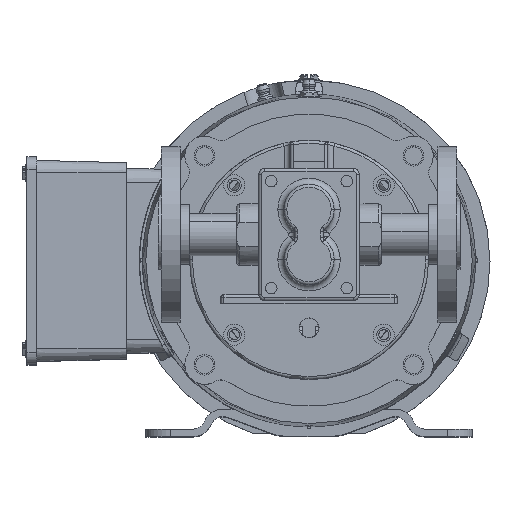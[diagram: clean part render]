
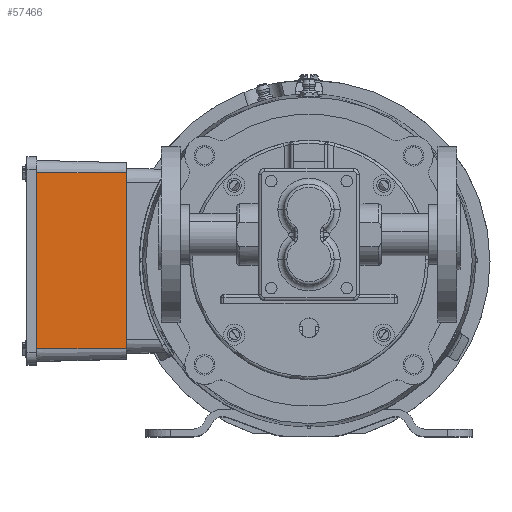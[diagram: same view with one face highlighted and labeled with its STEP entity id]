
A CAD part, top view. The second image highlights one B-rep face of the part: STEP entity #57466.
In plain terms, the highlighted planar face has unit normal (0.026, 0, 1).
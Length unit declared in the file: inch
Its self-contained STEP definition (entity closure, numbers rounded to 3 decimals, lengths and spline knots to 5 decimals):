
#966 = EDGE_CURVE ( 'NONE', #20325, #61174, #53790, .T. ) ;
#1228 = CARTESIAN_POINT ( 'NONE',  ( -6.59618, 2.2822, -8.29026 ) ) ;
#2834 = ORIENTED_EDGE ( 'NONE', *, *, #12655, .T. ) ;
#4219 = VECTOR ( 'NONE', #15837, 39.37008 ) ;
#4532 = CARTESIAN_POINT ( 'NONE',  ( -6.69118, 2.2822, -8.28777 ) ) ;
#8076 = LINE ( 'NONE', #46836, #20709 ) ;
#12655 = EDGE_CURVE ( 'NONE', #61174, #34516, #59400, .T. ) ;
#13165 = DIRECTION ( 'NONE',  ( 0.026, 0., 1. ) ) ;
#15698 = CARTESIAN_POINT ( 'NONE',  ( -6.59618, -1.2178, -8.29026 ) ) ;
#15837 = DIRECTION ( 'NONE',  ( 0., -1., 0. ) ) ;
#17978 = CARTESIAN_POINT ( 'NONE',  ( -4.81118, 2.2822, -8.337 ) ) ;
#18599 = CARTESIAN_POINT ( 'NONE',  ( -4.81118, 2.2822, -8.337 ) ) ;
#19963 = VECTOR ( 'NONE', #43306, 39.37008 ) ;
#20325 = VERTEX_POINT ( 'NONE', #17978 ) ;
#20709 = VECTOR ( 'NONE', #37945, 39.37008 ) ;
#22917 = CARTESIAN_POINT ( 'NONE',  ( -6.59618, 2.2822, -8.29026 ) ) ;
#23396 = AXIS2_PLACEMENT_3D ( 'NONE', #37317, #13165, #32525 ) ;
#23398 = VERTEX_POINT ( 'NONE', #61082 ) ;
#27385 = ORIENTED_EDGE ( 'NONE', *, *, #55065, .T. ) ;
#32525 = DIRECTION ( 'NONE',  ( 1., 0., -0.026 ) ) ;
#34516 = VERTEX_POINT ( 'NONE', #15698 ) ;
#37317 = CARTESIAN_POINT ( 'NONE',  ( -6.69118, 2.2822, -8.28777 ) ) ;
#37945 = DIRECTION ( 'NONE',  ( -1., 0., 0.026 ) ) ;
#37998 = DIRECTION ( 'NONE',  ( 0., 1., 0. ) ) ;
#40885 = ORIENTED_EDGE ( 'NONE', *, *, #966, .T. ) ;
#42067 = FACE_OUTER_BOUND ( 'NONE', #56071, .T. ) ;
#43306 = DIRECTION ( 'NONE',  ( -1., 0., 0.026 ) ) ;
#46836 = CARTESIAN_POINT ( 'NONE',  ( -6.69118, -1.2178, -8.28777 ) ) ;
#49484 = VECTOR ( 'NONE', #37998, 39.37008 ) ;
#50616 = EDGE_CURVE ( 'NONE', #23398, #34516, #8076, .T. ) ;
#51719 = ORIENTED_EDGE ( 'NONE', *, *, #50616, .F. ) ;
#52578 = PLANE ( 'NONE',  #23396 ) ;
#53790 = LINE ( 'NONE', #4532, #19963 ) ;
#55065 = EDGE_CURVE ( 'NONE', #23398, #20325, #62171, .T. ) ;
#56071 = EDGE_LOOP ( 'NONE', ( #40885, #2834, #51719, #27385 ) ) ;
#57466 = ADVANCED_FACE ( 'NONE', ( #42067 ), #52578, .T. ) ;
#59400 = LINE ( 'NONE', #1228, #4219 ) ;
#61082 = CARTESIAN_POINT ( 'NONE',  ( -4.81118, -1.2178, -8.337 ) ) ;
#61174 = VERTEX_POINT ( 'NONE', #22917 ) ;
#62171 = LINE ( 'NONE', #18599, #49484 ) ;
